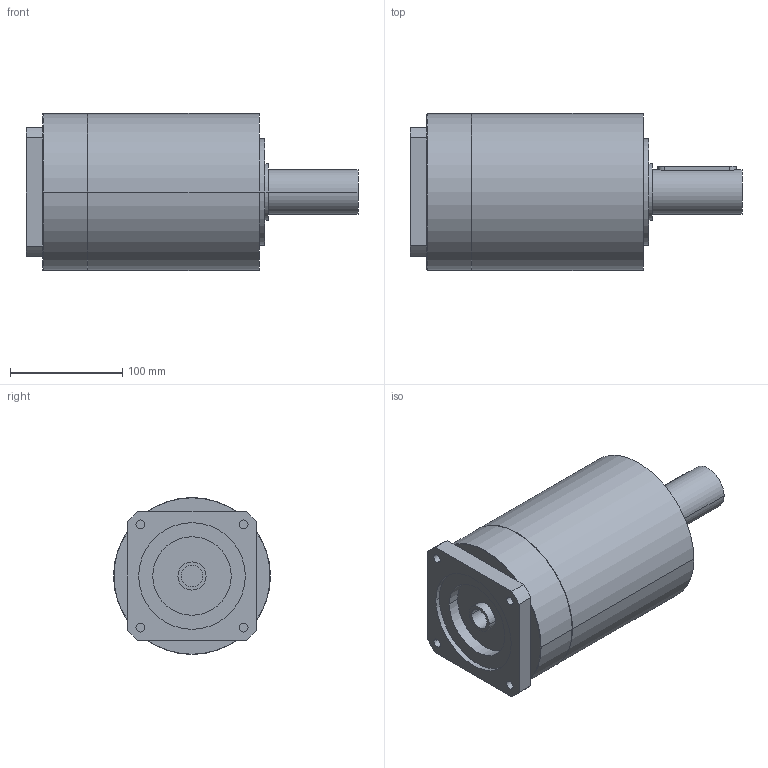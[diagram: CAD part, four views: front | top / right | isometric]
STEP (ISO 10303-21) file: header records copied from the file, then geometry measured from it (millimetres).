
FILE_DESCRIPTION(('CoCreate Modeling STEP Export'),'2;1');
FILE_NAME('GPR150_ig-9-12-16-20-28-35_40_B14_19_P10.stp','2014-08-19T17:03:21',(''),(''),'CoCreate Modeling STEP processor for AP214 (Solid Model)','CoCreate Modeling 16.00C 25-Feb-2009 (C) Parametric Technology GmbH','');
FILE_SCHEMA(('AUTOMOTIVE_DESIGN { 1 0 10303 214 1 1 1 1 }'));
Length unit declared in the file: millimetre
Products named in the file (2): GPR150_ig-9-12-16-20-28-35_40_B14_19_P10
Assembly tree (1 placements, depth 2):
  GPR150_ig-9-12-16-20-28-35_40_B14_19_P10
    GPR150_ig-9-12-16-20-28-35_40_B14_19_P10
Bounding box: 296 x 140 x 140 mm (x, y, z)
Volume: 3214612.9 mm3; surface area: 148879 mm2
Topology: 1 solids, 1 shells, 81 faces, 200 edges, 136 vertices
Faces by surface type: cylinder 42, plane 33, cone 6
Entity records: 2061 total; most frequent: ORIENTED_EDGE 396, CARTESIAN_POINT 395, DIRECTION 272, EDGE_CURVE 198, VERTEX_POINT 136, AXIS2_PLACEMENT_3D 101, EDGE_LOOP 98, FACE_OUTER_BOUND 81
